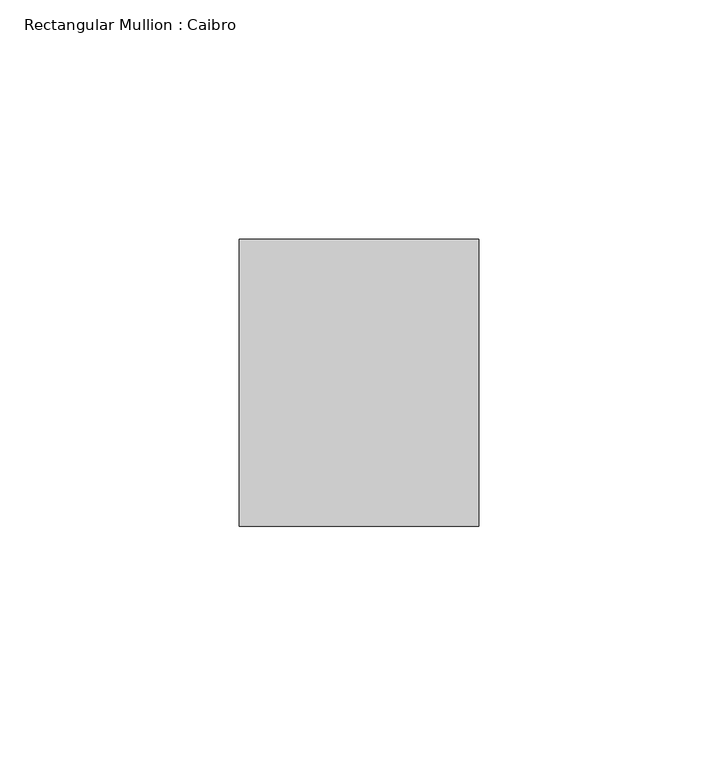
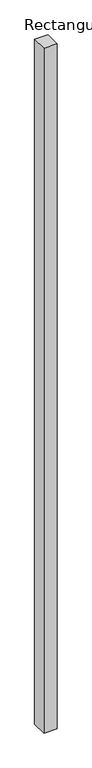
"""IFC4 building model written with IfcOpenShell, lengths in millimetres: member geometry, Rectangular Mullion : Caibro."""

from ifc_helpers import new_model, si_unit, frame, origin, place, context, project, spatial, polyline, outline, extrude, source, transform, mapped, element, save


def rectangular_mullion_caibro_334ef1ce(model_context):
    return source(origin(), model_context, "Body", "SweptSolid", [
        extrude(outline(polyline([(-50.0, -60.0), (-50.0, 0.0), (0.0, 0.0), (0.0, -60.0), (-50.0, -60.0)])), frame((0.0, 0.0, -2757.5618379), z_axis=(0.0, 0.0, 1.0), x_axis=(1.0, 0.0, 0.0)), (0.0, 0.0, 1.0), 2757.5618379),
    ])


if __name__ == "__main__":
    model = new_model("IFC4")
    model_context = context("Model", 3, world=origin())
    ifc_project = project(units=[si_unit("LENGTHUNIT", "METRE", prefix="MILLI")], contexts=[model_context])
    site = spatial("IfcSite", under=ifc_project)
    building = spatial("IfcBuilding", under=site)
    placement = place(None, origin())
    rectangular_mullion_caibro_shape = rectangular_mullion_caibro_334ef1ce(model_context)
    element("IfcMember", 1, ObjectType="Rectangular Mullion : Caibro", at=placement, inside=building, context=model_context, shape_type="MappedRepresentation", body=[
        mapped(rectangular_mullion_caibro_shape, transform((0.0, 0.0, 0.0), x_axis=(1.0, 0.0, 0.0), y_axis=(0.0, 1.0, 0.0), z_axis=(0.0, 0.0, 1.0))),
    ])
    save(model, "model.ifc")
